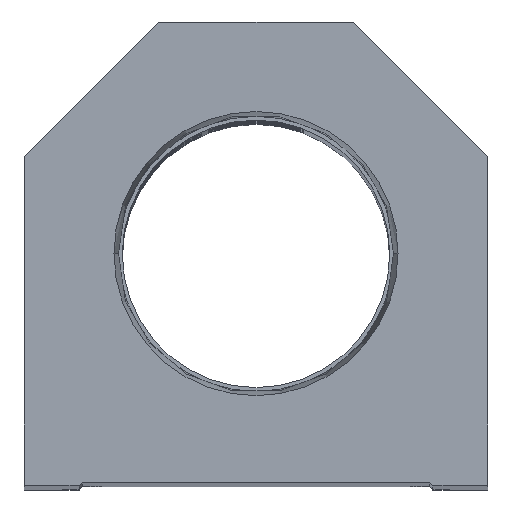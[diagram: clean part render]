
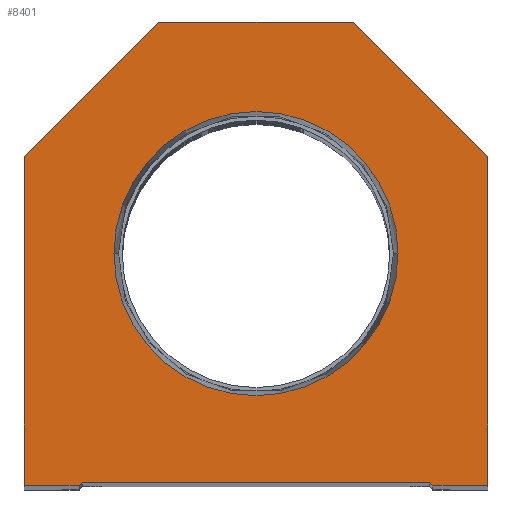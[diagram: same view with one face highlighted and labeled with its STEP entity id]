
A CAD part, top view. The second image highlights one B-rep face of the part: STEP entity #8401.
In plain terms, the highlighted planar face has unit normal (0, 0, 1).
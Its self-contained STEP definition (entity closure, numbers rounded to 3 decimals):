
#142 = DIRECTION ( 'NONE',  ( 0., -1., 0. ) ) ;
#179 = CARTESIAN_POINT ( 'NONE',  ( -14.55, 14.55, 0. ) ) ;
#484 = CARTESIAN_POINT ( 'NONE',  ( -38.1, 0., 0. ) ) ;
#552 = ORIENTED_EDGE ( 'NONE', *, *, #1384, .T. ) ;
#556 = ORIENTED_EDGE ( 'NONE', *, *, #9650, .T. ) ;
#675 = DIRECTION ( 'NONE',  ( 1., 0., 0. ) ) ;
#721 = EDGE_CURVE ( 'NONE', #2587, #12893, #7340, .T. ) ;
#777 = DIRECTION ( 'NONE',  ( 0., 0., 1. ) ) ;
#874 = VECTOR ( 'NONE', #18603, 1000. ) ;
#1384 = EDGE_CURVE ( 'NONE', #2957, #20095, #19139, .T. ) ;
#1744 = CARTESIAN_POINT ( 'NONE',  ( 28.6, 0., 0. ) ) ;
#1809 = VERTEX_POINT ( 'NONE', #21726 ) ;
#1922 = EDGE_CURVE ( 'NONE', #8290, #1809, #7920, .T. ) ;
#2121 = DIRECTION ( 'NONE',  ( 0., 0., 1. ) ) ;
#2587 = VERTEX_POINT ( 'NONE', #4288 ) ;
#2725 = EDGE_LOOP ( 'NONE', ( #14247, #20485, #21990, #3845, #20281, #552, #9539, #21520, #556, #5429 ) ) ;
#2957 = VERTEX_POINT ( 'NONE', #10928 ) ;
#2984 = CARTESIAN_POINT ( 'NONE',  ( 23.374, 38.1, 0. ) ) ;
#3092 = AXIS2_PLACEMENT_3D ( 'NONE', #7163, #19219, #13699 ) ;
#3212 = EDGE_CURVE ( 'NONE', #1809, #2957, #6983, .T. ) ;
#3347 = DIRECTION ( 'NONE',  ( -0.707, 0.707, 0. ) ) ;
#3845 = ORIENTED_EDGE ( 'NONE', *, *, #1922, .T. ) ;
#4162 = DIRECTION ( 'NONE',  ( 1., 0., 0. ) ) ;
#4288 = CARTESIAN_POINT ( 'NONE',  ( -29.1, 0., 0. ) ) ;
#4583 = CARTESIAN_POINT ( 'NONE',  ( 16., 76.2, 0. ) ) ;
#5276 = VECTOR ( 'NONE', #10656, 1000. ) ;
#5429 = ORIENTED_EDGE ( 'NONE', *, *, #15413, .T. ) ;
#5958 = EDGE_CURVE ( 'NONE', #17358, #17267, #20497, .T. ) ;
#6290 = VECTOR ( 'NONE', #6402, 1000. ) ;
#6402 = DIRECTION ( 'NONE',  ( -1., 0., 0. ) ) ;
#6983 = LINE ( 'NONE', #1744, #5276 ) ;
#7163 = CARTESIAN_POINT ( 'NONE',  ( 0., 38.1, 0. ) ) ;
#7192 = LINE ( 'NONE', #14188, #13691 ) ;
#7340 = LINE ( 'NONE', #179, #21451 ) ;
#7454 = CIRCLE ( 'NONE', #3092, 23.374 ) ;
#7519 = AXIS2_PLACEMENT_3D ( 'NONE', #9850, #777, #675 ) ;
#7604 = PLANE ( 'NONE',  #20957 ) ;
#7920 = LINE ( 'NONE', #16741, #874 ) ;
#7930 = CARTESIAN_POINT ( 'NONE',  ( -28.6, 0.5, 0. ) ) ;
#7962 = CARTESIAN_POINT ( 'NONE',  ( 16., 76.2, 0. ) ) ;
#8290 = VERTEX_POINT ( 'NONE', #13926 ) ;
#8401 = ADVANCED_FACE ( 'NONE', ( #9351, #19657 ), #7604, .T. ) ;
#8703 = DIRECTION ( 'NONE',  ( 1., 0., 0. ) ) ;
#9257 = CARTESIAN_POINT ( 'NONE',  ( -38.1, 0., 0. ) ) ;
#9351 = FACE_BOUND ( 'NONE', #18007, .T. ) ;
#9539 = ORIENTED_EDGE ( 'NONE', *, *, #21043, .T. ) ;
#9650 = EDGE_CURVE ( 'NONE', #17267, #15446, #7192, .T. ) ;
#9850 = CARTESIAN_POINT ( 'NONE',  ( 0., 38.1, 0. ) ) ;
#10034 = CARTESIAN_POINT ( 'NONE',  ( 38.1, 54.1, 0. ) ) ;
#10656 = DIRECTION ( 'NONE',  ( 1., 0., 0. ) ) ;
#10712 = CARTESIAN_POINT ( 'NONE',  ( 0., 0., 0. ) ) ;
#10860 = VECTOR ( 'NONE', #15159, 1000. ) ;
#10928 = CARTESIAN_POINT ( 'NONE',  ( 38.1, 0., 0. ) ) ;
#10968 = VERTEX_POINT ( 'NONE', #9257 ) ;
#11488 = LINE ( 'NONE', #7930, #10860 ) ;
#11747 = CARTESIAN_POINT ( 'NONE',  ( -16., 76.2, 0. ) ) ;
#11805 = EDGE_CURVE ( 'NONE', #21742, #19427, #19251, .T. ) ;
#12119 = LINE ( 'NONE', #12474, #15268 ) ;
#12416 = VECTOR ( 'NONE', #3347, 1000. ) ;
#12474 = CARTESIAN_POINT ( 'NONE',  ( -28.6, 0., 0. ) ) ;
#12615 = CARTESIAN_POINT ( 'NONE',  ( -23.374, 38.1, 0. ) ) ;
#12893 = VERTEX_POINT ( 'NONE', #22544 ) ;
#13691 = VECTOR ( 'NONE', #21182, 1000. ) ;
#13699 = DIRECTION ( 'NONE',  ( 1., 0., 0. ) ) ;
#13884 = LINE ( 'NONE', #10034, #12416 ) ;
#13926 = CARTESIAN_POINT ( 'NONE',  ( 28.6, 0.5, 0. ) ) ;
#13955 = VECTOR ( 'NONE', #142, 1000. ) ;
#14188 = CARTESIAN_POINT ( 'NONE',  ( -38.1, 54.1, 0. ) ) ;
#14247 = ORIENTED_EDGE ( 'NONE', *, *, #18571, .T. ) ;
#15159 = DIRECTION ( 'NONE',  ( 1., 0., 0. ) ) ;
#15268 = VECTOR ( 'NONE', #8703, 1000. ) ;
#15413 = EDGE_CURVE ( 'NONE', #15446, #10968, #15813, .T. ) ;
#15446 = VERTEX_POINT ( 'NONE', #16031 ) ;
#15528 = CARTESIAN_POINT ( 'NONE',  ( 38.1, 54.1, 0. ) ) ;
#15813 = LINE ( 'NONE', #484, #13955 ) ;
#16031 = CARTESIAN_POINT ( 'NONE',  ( -38.1, 54.1, 0. ) ) ;
#16496 = EDGE_CURVE ( 'NONE', #19427, #21742, #7454, .T. ) ;
#16729 = ORIENTED_EDGE ( 'NONE', *, *, #16496, .F. ) ;
#16741 = CARTESIAN_POINT ( 'NONE',  ( 14.55, 14.55, 0. ) ) ;
#16923 = VECTOR ( 'NONE', #20951, 1000. ) ;
#17267 = VERTEX_POINT ( 'NONE', #11747 ) ;
#17358 = VERTEX_POINT ( 'NONE', #7962 ) ;
#17912 = DIRECTION ( 'NONE',  ( 0.707, 0.707, 0. ) ) ;
#18007 = EDGE_LOOP ( 'NONE', ( #20850, #16729 ) ) ;
#18571 = EDGE_CURVE ( 'NONE', #10968, #2587, #12119, .T. ) ;
#18603 = DIRECTION ( 'NONE',  ( 0.707, -0.707, 0. ) ) ;
#19041 = EDGE_CURVE ( 'NONE', #12893, #8290, #11488, .T. ) ;
#19139 = LINE ( 'NONE', #19359, #16923 ) ;
#19219 = DIRECTION ( 'NONE',  ( 0., 0., 1. ) ) ;
#19251 = CIRCLE ( 'NONE', #7519, 23.374 ) ;
#19359 = CARTESIAN_POINT ( 'NONE',  ( 38.1, 0., 0. ) ) ;
#19427 = VERTEX_POINT ( 'NONE', #12615 ) ;
#19657 = FACE_OUTER_BOUND ( 'NONE', #2725, .T. ) ;
#20095 = VERTEX_POINT ( 'NONE', #15528 ) ;
#20281 = ORIENTED_EDGE ( 'NONE', *, *, #3212, .T. ) ;
#20485 = ORIENTED_EDGE ( 'NONE', *, *, #721, .T. ) ;
#20497 = LINE ( 'NONE', #4583, #6290 ) ;
#20850 = ORIENTED_EDGE ( 'NONE', *, *, #11805, .F. ) ;
#20951 = DIRECTION ( 'NONE',  ( 0., 1., 0. ) ) ;
#20957 = AXIS2_PLACEMENT_3D ( 'NONE', #10712, #2121, #4162 ) ;
#21043 = EDGE_CURVE ( 'NONE', #20095, #17358, #13884, .T. ) ;
#21182 = DIRECTION ( 'NONE',  ( -0.707, -0.707, 0. ) ) ;
#21451 = VECTOR ( 'NONE', #17912, 1000. ) ;
#21520 = ORIENTED_EDGE ( 'NONE', *, *, #5958, .T. ) ;
#21726 = CARTESIAN_POINT ( 'NONE',  ( 29.1, 0., 0. ) ) ;
#21742 = VERTEX_POINT ( 'NONE', #2984 ) ;
#21990 = ORIENTED_EDGE ( 'NONE', *, *, #19041, .T. ) ;
#22544 = CARTESIAN_POINT ( 'NONE',  ( -28.6, 0.5, 0. ) ) ;
